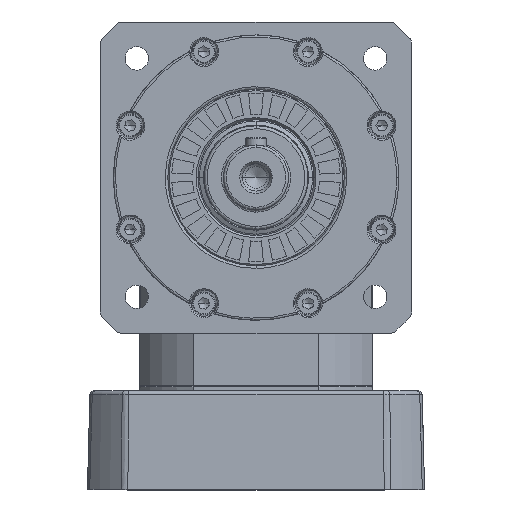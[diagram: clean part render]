
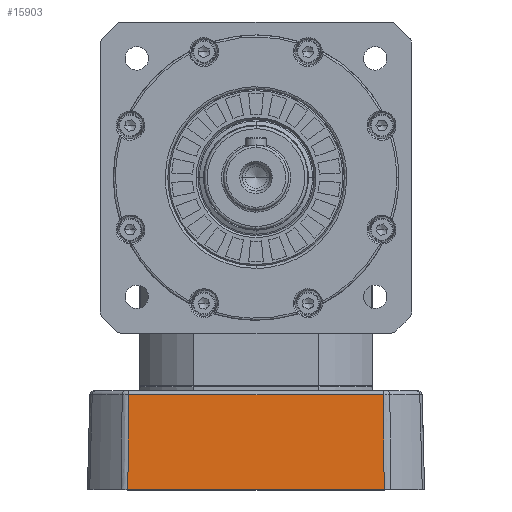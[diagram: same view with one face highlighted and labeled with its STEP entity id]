
A CAD part, top view. The second image highlights one B-rep face of the part: STEP entity #15903.
In plain terms, the highlighted planar face has unit normal (0, 0.026, 1).
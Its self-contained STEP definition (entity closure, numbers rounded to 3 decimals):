
#412 = CARTESIAN_POINT ( 'NONE',  ( 25.493, -113.28, 75.246 ) ) ;
#854 = PLANE ( 'NONE',  #11179 ) ;
#1303 = DIRECTION ( 'NONE',  ( 0., -1., 0.026 ) ) ;
#4054 = DIRECTION ( 'NONE',  ( -0.009, -1., 0.026 ) ) ;
#8016 = EDGE_CURVE ( 'NONE', #10487, #23317, #48257, .T. ) ;
#10487 = VERTEX_POINT ( 'NONE', #20553 ) ;
#11009 = EDGE_CURVE ( 'NONE', #74531, #21428, #37187, .T. ) ;
#11179 = AXIS2_PLACEMENT_3D ( 'NONE', #56779, #84729, #1303 ) ;
#15665 = ORIENTED_EDGE ( 'NONE', *, *, #8016, .F. ) ;
#15759 = EDGE_CURVE ( 'NONE', #21428, #23317, #89811, .T. ) ;
#15903 = ADVANCED_FACE ( 'NONE', ( #51253 ), #854, .T. ) ;
#16445 = VECTOR ( 'NONE', #61987, 1000. ) ;
#20553 = CARTESIAN_POINT ( 'NONE',  ( -72.986, -76.74, 74.289 ) ) ;
#21003 = DIRECTION ( 'NONE',  ( -0.009, 1., -0.026 ) ) ;
#21428 = VERTEX_POINT ( 'NONE', #46516 ) ;
#22670 = CARTESIAN_POINT ( 'NONE',  ( -73.326, -113.28, 75.246 ) ) ;
#23317 = VERTEX_POINT ( 'NONE', #73007 ) ;
#28082 = CARTESIAN_POINT ( 'NONE',  ( -23.917, -76.74, 74.289 ) ) ;
#28460 = VECTOR ( 'NONE', #50020, 1000. ) ;
#37187 = LINE ( 'NONE', #71082, #28460 ) ;
#37649 = EDGE_CURVE ( 'NONE', #10487, #74531, #51299, .T. ) ;
#46516 = CARTESIAN_POINT ( 'NONE',  ( 25.493, -113.28, 75.246 ) ) ;
#48257 = LINE ( 'NONE', #28082, #16445 ) ;
#50020 = DIRECTION ( 'NONE',  ( 1., 0., 0. ) ) ;
#51253 = FACE_OUTER_BOUND ( 'NONE', #86408, .T. ) ;
#51299 = LINE ( 'NONE', #66814, #55576 ) ;
#55576 = VECTOR ( 'NONE', #4054, 1000. ) ;
#56779 = CARTESIAN_POINT ( 'NONE',  ( 26.889, -113.28, 75.246 ) ) ;
#60999 = ORIENTED_EDGE ( 'NONE', *, *, #37649, .T. ) ;
#61987 = DIRECTION ( 'NONE',  ( 1., 0., 0. ) ) ;
#66814 = CARTESIAN_POINT ( 'NONE',  ( -72.986, -76.74, 74.289 ) ) ;
#71082 = CARTESIAN_POINT ( 'NONE',  ( 26.889, -113.28, 75.246 ) ) ;
#73007 = CARTESIAN_POINT ( 'NONE',  ( 25.153, -76.74, 74.289 ) ) ;
#74531 = VERTEX_POINT ( 'NONE', #22670 ) ;
#77599 = ORIENTED_EDGE ( 'NONE', *, *, #11009, .T. ) ;
#84729 = DIRECTION ( 'NONE',  ( 0., 0.026, 1. ) ) ;
#85904 = VECTOR ( 'NONE', #21003, 1000. ) ;
#86408 = EDGE_LOOP ( 'NONE', ( #60999, #77599, #89384, #15665 ) ) ;
#89384 = ORIENTED_EDGE ( 'NONE', *, *, #15759, .T. ) ;
#89811 = LINE ( 'NONE', #412, #85904 ) ;
